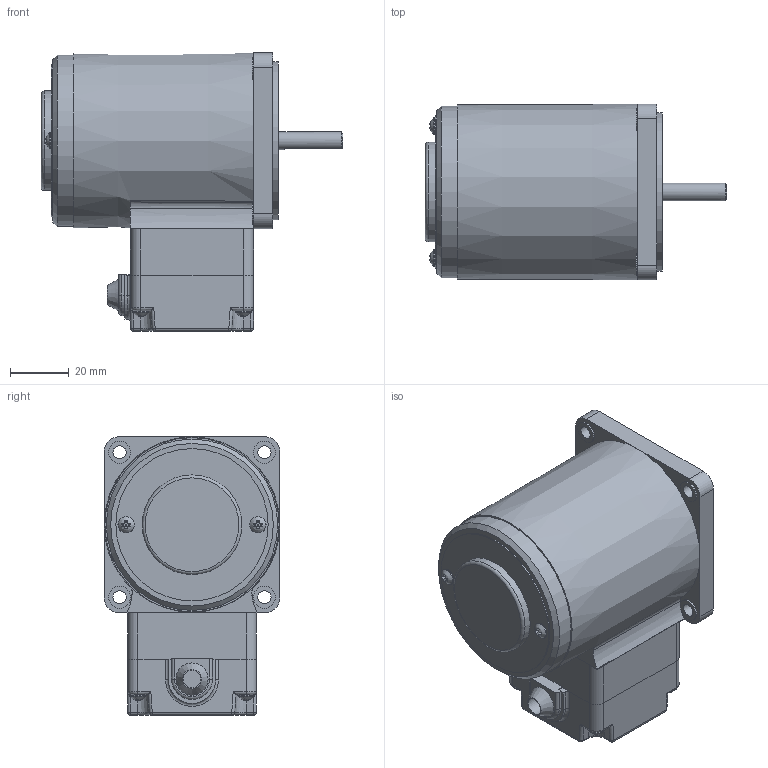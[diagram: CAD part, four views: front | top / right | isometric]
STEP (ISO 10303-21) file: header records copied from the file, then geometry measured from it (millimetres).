
FILE_DESCRIPTION(/* description */ (''),/* implementation_level */ '2;1');
FILE_NAME(/* name */ 'E:\도면작업\2016\0704) 미주향 SG 도면\3D MOTOR\TERMINAL BOX TYPE\REVERSIBLE TERMINAL BOX\SG6R06D_-T.stp',/* time_stamp */ '2017-01-24T08:31:30+09:00',/* author */ ('jy-jung'),/* organization */ (''),/* preprocessor_version */ 'ST-DEVELOPER v15.6',/* originating_system */ 'Autodesk Inventor 2015',/* authorisation */ '');
FILE_SCHEMA (('AUTOMOTIVE_DESIGN { 1 0 10303 214 3 1 1 }'));
Length unit declared in the file: millimetre
Products named in the file (1): 부품1
Bounding box: 103 x 60 x 95 mm (x, y, z)
Volume: 251569.6 mm3; surface area: 44242.9 mm2
Topology: 1 solids, 9 shells, 602 faces, 1544 edges, 963 vertices
Faces by surface type: plane 310, cylinder 202, torus 39, cone 18, bspline 17, sphere 16
Full cylindrical faces by diameter (mm): 2.5 x2, 3 x6, 3.5 x10, 4.5 x4, 5.6 x6, 6 x2, 7.5 x4, 8 x1, 25 x1, 34 x1, 52 x1, 54 x1, 58.5 x1
Entity records: 19078 total; most frequent: CARTESIAN_POINT 4055, DIRECTION 3024, ORIENTED_EDGE 2906, EDGE_CURVE 1453, AXIS2_PLACEMENT_3D 1091, VERTEX_POINT 954, LINE 842, VECTOR 842
